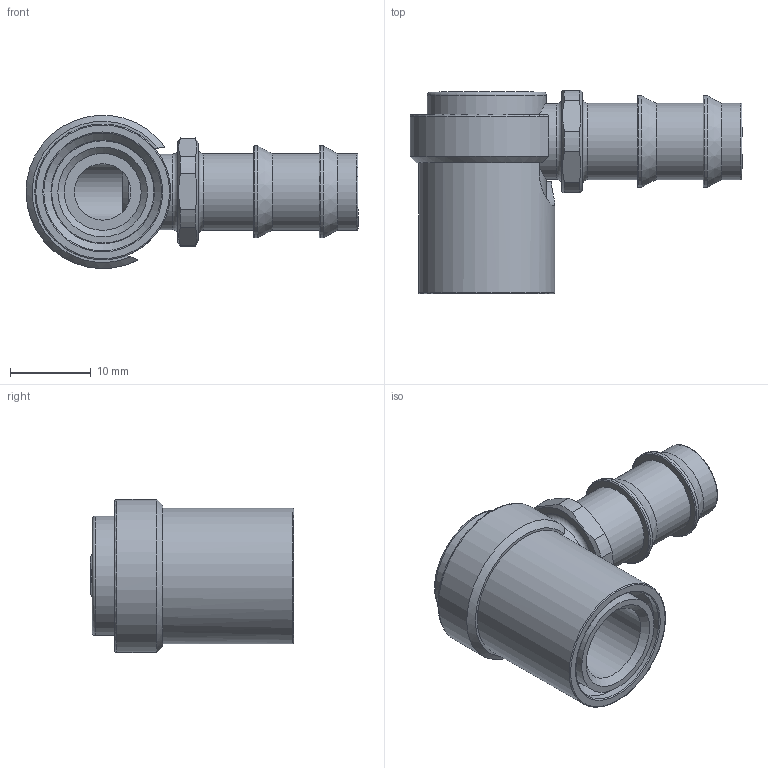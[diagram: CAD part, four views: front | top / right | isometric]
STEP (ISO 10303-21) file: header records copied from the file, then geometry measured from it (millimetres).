
FILE_DESCRIPTION(/* description */ (''),/* implementation_level */ '2;1');
FILE_NAME(/* name */ 'C:/Users/drich/Desktop/SJ200-6 v1.step',/* time_stamp */ '2019-12-29T15:42:03-06:00',/* author */ (''),/* organization */ (''),/* preprocessor_version */ 'ST-DEVELOPER v18',/* originating_system */ 'Autodesk Translation Framework v8.12.0.6',/* authorisation */ '');
FILE_SCHEMA (('AUTOMOTIVE_DESIGN { 1 0 10303 214 3 1 1 }'));
Length unit declared in the file: inch
Products named in the file (6): SJ200-6; CM-218 body; Component2; 200 ser sleeve; 200 ser sleeve_1; SJ200-6 BARB
Assembly tree (5 placements, depth 3):
  SJ200-6
    CM-218 body
      Component2
    200 ser sleeve
      200 ser sleeve_1
    SJ200-6 BARB
Bounding box: 41.22 x 25.23 x 19.02 mm (x, y, z)
Volume: 4898.3 mm3; surface area: 6363.1 mm2
Topology: 4 solids, 4 shells, 84 faces, 232 edges, 162 vertices
Faces by surface type: cylinder 31, plane 29, cone 12, torus 12
Full cylindrical faces by diameter (mm): 7.01 x1, 7.023 x1, 7.112 x1, 7.137 x1, 9.413 x1, 9.5 x3, 9.55 x1, 9.652 x1, 9.804 x1, 10.109 x2, 10.922 x1, 11.43 x2, 12.7 x1, 12.852 x1, 14.63 x1, 14.808 x1, 14.91 x1, 16.866 x1
Entity records: 3159 total; most frequent: CARTESIAN_POINT 727, DIRECTION 533, ORIENTED_EDGE 462, AXIS2_PLACEMENT_3D 236, EDGE_CURVE 231, VERTEX_POINT 162, CIRCLE 138, EDGE_LOOP 99
